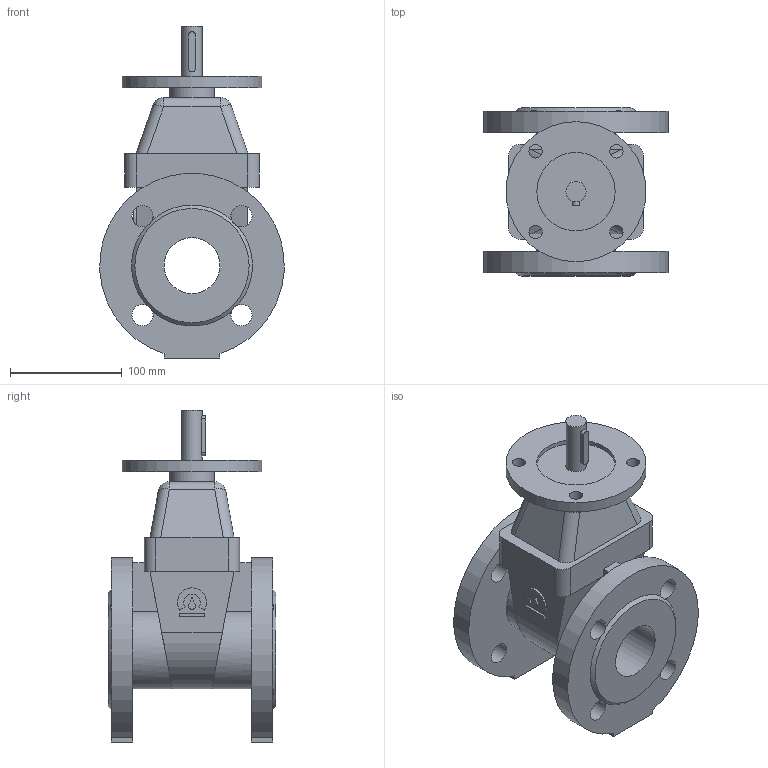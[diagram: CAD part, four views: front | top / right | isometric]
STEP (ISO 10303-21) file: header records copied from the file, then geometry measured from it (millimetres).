
FILE_DESCRIPTION(('STEP AP203'), '1');
FILE_NAME('Çàäâèæêà 47GVA DN50 PN10_PN16 áåç èñïîëíèò. ìåõ.', '', ('UNSPECIFIED'), ('UNSPECIFIED'), 'ASCON STEP Converter 1.6', 'ASCON Math Kernel', '');
FILE_SCHEMA(('CONFIG_CONTROL_DESIGN'));
Length unit declared in the file: millimetre
Bounding box: 164.7 x 150 x 296.5 mm (x, y, z)
Volume: 2010904.9 mm3; surface area: 227305.3 mm2
Topology: 1 solids, 1 shells, 102 faces, 275 edges, 176 vertices
Faces by surface type: plane 53, cylinder 43, bspline 4, cone 2
Full cylindrical faces by diameter (mm): 12 x4, 18 x1, 19 x8, 40 x1, 50 x1, 70 x1, 125 x1
Entity records: 5041 total; most frequent: CARTESIAN_POINT 1648, DIRECTION 524, ORIENTED_EDGE 504, EDGE_CURVE 252, AXIS2_PLACEMENT_3D 195, VERTEX_POINT 176, EDGE_LOOP 152, LINE 134
